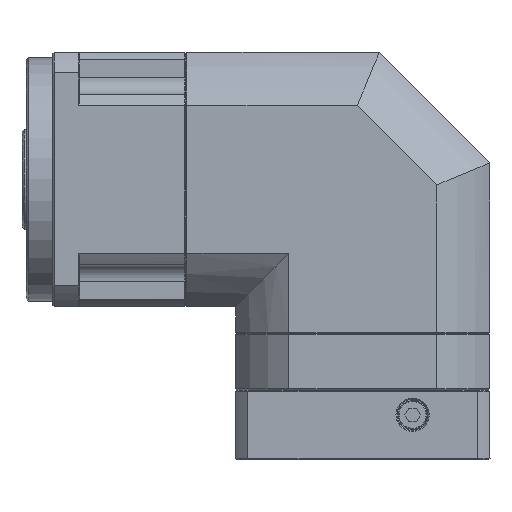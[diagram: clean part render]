
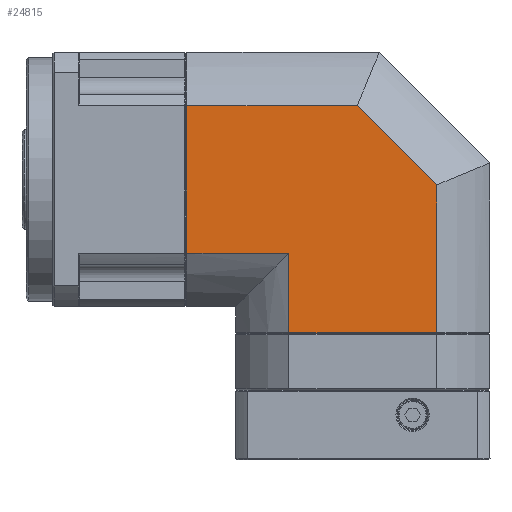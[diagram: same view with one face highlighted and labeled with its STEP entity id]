
A CAD part, left-side view. The second image highlights one B-rep face of the part: STEP entity #24815.
In plain terms, the highlighted planar face has unit normal (1, 0, 0).
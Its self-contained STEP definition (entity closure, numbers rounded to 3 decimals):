
#237 = VECTOR ( 'NONE', #27916, 1000. ) ;
#535 = LINE ( 'NONE', #27297, #34930 ) ;
#921 = VERTEX_POINT ( 'NONE', #88435 ) ;
#1913 = CARTESIAN_POINT ( 'NONE',  ( -57.5, -148.018, -2.48 ) ) ;
#2538 = ORIENTED_EDGE ( 'NONE', *, *, #70572, .T. ) ;
#3112 = DIRECTION ( 'NONE',  ( 0., -1., 0. ) ) ;
#4617 = DIRECTION ( 'NONE',  ( 0., 1., 0. ) ) ;
#6926 = LINE ( 'NONE', #45676, #23055 ) ;
#7995 = ORIENTED_EDGE ( 'NONE', *, *, #29960, .F. ) ;
#10128 = VECTOR ( 'NONE', #66577, 1000. ) ;
#10876 = VERTEX_POINT ( 'NONE', #13948 ) ;
#12907 = DIRECTION ( 'NONE',  ( 1., 0., 0. ) ) ;
#13948 = CARTESIAN_POINT ( 'NONE',  ( -57.5, -81.205, -69.2 ) ) ;
#18588 = LINE ( 'NONE', #48256, #237 ) ;
#20799 = CARTESIAN_POINT ( 'NONE',  ( -57.5, -81.205, -17.897 ) ) ;
#21930 = LINE ( 'NONE', #26186, #56116 ) ;
#22357 = EDGE_LOOP ( 'NONE', ( #2538, #50652, #56890, #58687, #75493, #7995, #63346 ) ) ;
#22401 = CARTESIAN_POINT ( 'NONE',  ( -57.5, -35.111, 33.407 ) ) ;
#23055 = VECTOR ( 'NONE', #4617, 1000. ) ;
#23910 = VERTEX_POINT ( 'NONE', #35724 ) ;
#24426 = CARTESIAN_POINT ( 'NONE',  ( -57.5, -35.111, -33.407 ) ) ;
#24815 = ADVANCED_FACE ( 'NONE', ( #66093 ), #76287, .T. ) ;
#26186 = CARTESIAN_POINT ( 'NONE',  ( -57.5, -148.018, -17.897 ) ) ;
#27297 = CARTESIAN_POINT ( 'NONE',  ( -57.5, -35.111, 0. ) ) ;
#27699 = EDGE_CURVE ( 'NONE', #72757, #23910, #48722, .T. ) ;
#27916 = DIRECTION ( 'NONE',  ( 0., 1., 0. ) ) ;
#29960 = EDGE_CURVE ( 'NONE', #79063, #10876, #40732, .T. ) ;
#32597 = CARTESIAN_POINT ( 'NONE',  ( -57.5, -155.375, -9.837 ) ) ;
#34930 = VECTOR ( 'NONE', #81822, 1000. ) ;
#35724 = CARTESIAN_POINT ( 'NONE',  ( -57.5, -112.131, 33.407 ) ) ;
#36674 = LINE ( 'NONE', #63583, #70763 ) ;
#40732 = LINE ( 'NONE', #20799, #56738 ) ;
#41460 = DIRECTION ( 'NONE',  ( 0., 0., -1. ) ) ;
#45676 = CARTESIAN_POINT ( 'NONE',  ( -57.5, -91.564, 33.407 ) ) ;
#46816 = DIRECTION ( 'NONE',  ( 0., 0., 1. ) ) ;
#48057 = EDGE_CURVE ( 'NONE', #10876, #921, #36674, .T. ) ;
#48256 = CARTESIAN_POINT ( 'NONE',  ( -57.5, -58.296, -33.407 ) ) ;
#48722 = LINE ( 'NONE', #32597, #10128 ) ;
#50389 = VERTEX_POINT ( 'NONE', #24426 ) ;
#50652 = ORIENTED_EDGE ( 'NONE', *, *, #55122, .F. ) ;
#51615 = CARTESIAN_POINT ( 'NONE',  ( -57.5, -81.205, -33.407 ) ) ;
#53853 = CARTESIAN_POINT ( 'NONE',  ( -57.5, -148.018, -69.2 ) ) ;
#55122 = EDGE_CURVE ( 'NONE', #23910, #86389, #6926, .T. ) ;
#55215 = EDGE_CURVE ( 'NONE', #921, #72757, #21930, .T. ) ;
#55682 = EDGE_CURVE ( 'NONE', #79063, #50389, #18588, .T. ) ;
#56116 = VECTOR ( 'NONE', #46816, 1000. ) ;
#56738 = VECTOR ( 'NONE', #41460, 1000. ) ;
#56890 = ORIENTED_EDGE ( 'NONE', *, *, #27699, .F. ) ;
#57179 = AXIS2_PLACEMENT_3D ( 'NONE', #53853, #12907, #60694 ) ;
#58687 = ORIENTED_EDGE ( 'NONE', *, *, #55215, .F. ) ;
#60694 = DIRECTION ( 'NONE',  ( 0., 1., 0. ) ) ;
#63346 = ORIENTED_EDGE ( 'NONE', *, *, #55682, .T. ) ;
#63583 = CARTESIAN_POINT ( 'NONE',  ( -57.5, -91.564, -69.2 ) ) ;
#66093 = FACE_OUTER_BOUND ( 'NONE', #22357, .T. ) ;
#66577 = DIRECTION ( 'NONE',  ( 0., 0.707, 0.707 ) ) ;
#70572 = EDGE_CURVE ( 'NONE', #50389, #86389, #535, .T. ) ;
#70763 = VECTOR ( 'NONE', #3112, 1000. ) ;
#72757 = VERTEX_POINT ( 'NONE', #1913 ) ;
#75493 = ORIENTED_EDGE ( 'NONE', *, *, #48057, .F. ) ;
#76287 = PLANE ( 'NONE',  #57179 ) ;
#79063 = VERTEX_POINT ( 'NONE', #51615 ) ;
#81822 = DIRECTION ( 'NONE',  ( 0., 0., 1. ) ) ;
#86389 = VERTEX_POINT ( 'NONE', #22401 ) ;
#88435 = CARTESIAN_POINT ( 'NONE',  ( -57.5, -148.018, -69.2 ) ) ;
